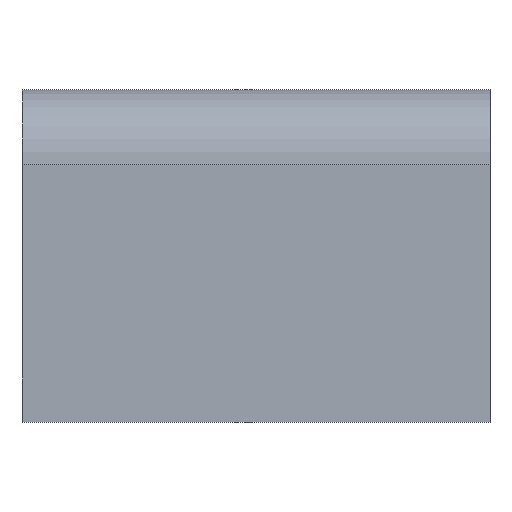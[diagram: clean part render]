
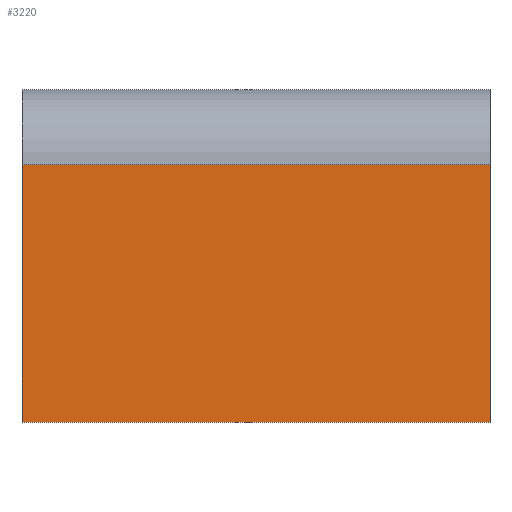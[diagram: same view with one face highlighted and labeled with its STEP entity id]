
A CAD part, top view. The second image highlights one B-rep face of the part: STEP entity #3220.
In plain terms, the highlighted planar face has unit normal (0, 0, 1) as drawn and (0, 1, 0) by its records, which use the part's own axes.
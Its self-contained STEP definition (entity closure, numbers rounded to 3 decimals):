
#155 = CARTESIAN_POINT ( 'NONE',  ( 21.5, 50.5, 50. ) ) ;
#169 = LINE ( 'NONE', #2556, #1201 ) ;
#210 = ORIENTED_EDGE ( 'NONE', *, *, #1087, .F. ) ;
#217 = CARTESIAN_POINT ( 'NONE',  ( 21.5, 50.5, 50. ) ) ;
#393 = ORIENTED_EDGE ( 'NONE', *, *, #2703, .T. ) ;
#419 = LINE ( 'NONE', #2456, #3244 ) ;
#560 = DIRECTION ( 'NONE',  ( 0., 0., -1. ) ) ;
#670 = DIRECTION ( 'NONE',  ( -1., 0., 0. ) ) ;
#1087 = EDGE_CURVE ( 'NONE', #2049, #2321, #419, .T. ) ;
#1106 = PLANE ( 'NONE',  #1566 ) ;
#1152 = CARTESIAN_POINT ( 'NONE',  ( 21.5, 50.5, 0. ) ) ;
#1201 = VECTOR ( 'NONE', #1941, 1000. ) ;
#1244 = DIRECTION ( 'NONE',  ( -1., 0., 0. ) ) ;
#1298 = VECTOR ( 'NONE', #560, 1000. ) ;
#1391 = VERTEX_POINT ( 'NONE', #2485 ) ;
#1442 = EDGE_CURVE ( 'NONE', #2321, #3804, #169, .T. ) ;
#1566 = AXIS2_PLACEMENT_3D ( 'NONE', #217, #3517, #2315 ) ;
#1679 = EDGE_LOOP ( 'NONE', ( #3537, #1906, #210, #393 ) ) ;
#1822 = VECTOR ( 'NONE', #670, 1000. ) ;
#1906 = ORIENTED_EDGE ( 'NONE', *, *, #1442, .F. ) ;
#1941 = DIRECTION ( 'NONE',  ( 0., 0., -1. ) ) ;
#2049 = VERTEX_POINT ( 'NONE', #155 ) ;
#2273 = CARTESIAN_POINT ( 'NONE',  ( -6., 50.5, 0. ) ) ;
#2315 = DIRECTION ( 'NONE',  ( 0., 0., -1. ) ) ;
#2321 = VERTEX_POINT ( 'NONE', #2361 ) ;
#2344 = LINE ( 'NONE', #1152, #1822 ) ;
#2361 = CARTESIAN_POINT ( 'NONE',  ( -6., 50.5, 50. ) ) ;
#2456 = CARTESIAN_POINT ( 'NONE',  ( 21.5, 50.5, 50. ) ) ;
#2485 = CARTESIAN_POINT ( 'NONE',  ( 21.5, 50.5, 0. ) ) ;
#2556 = CARTESIAN_POINT ( 'NONE',  ( -6., 50.5, 50. ) ) ;
#2675 = FACE_OUTER_BOUND ( 'NONE', #1679, .T. ) ;
#2703 = EDGE_CURVE ( 'NONE', #2049, #1391, #2966, .T. ) ;
#2827 = EDGE_CURVE ( 'NONE', #1391, #3804, #2344, .T. ) ;
#2966 = LINE ( 'NONE', #3283, #1298 ) ;
#3220 = ADVANCED_FACE ( 'NONE', ( #2675 ), #1106, .F. ) ;
#3244 = VECTOR ( 'NONE', #1244, 1000. ) ;
#3283 = CARTESIAN_POINT ( 'NONE',  ( 21.5, 50.5, 50. ) ) ;
#3517 = DIRECTION ( 'NONE',  ( 0., -1., 0. ) ) ;
#3537 = ORIENTED_EDGE ( 'NONE', *, *, #2827, .T. ) ;
#3804 = VERTEX_POINT ( 'NONE', #2273 ) ;
